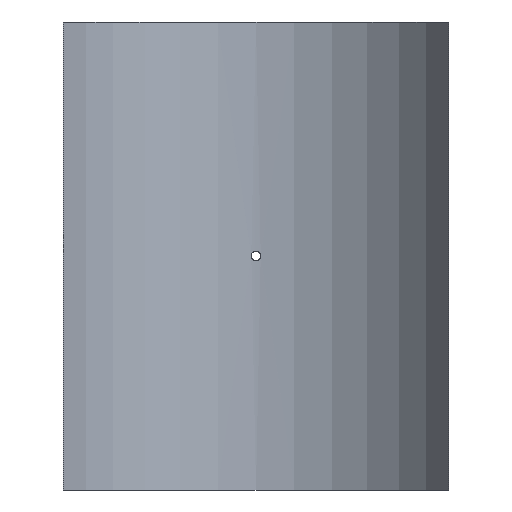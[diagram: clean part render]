
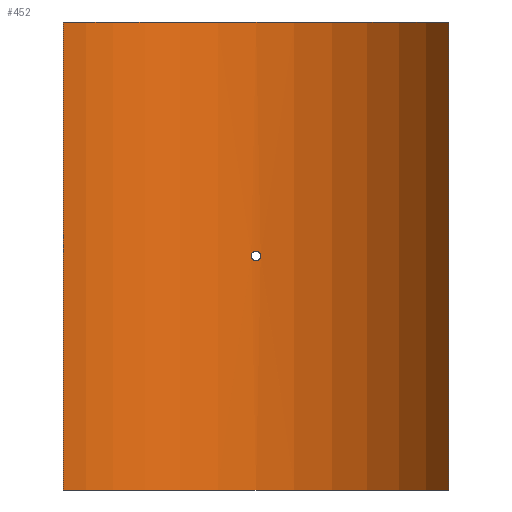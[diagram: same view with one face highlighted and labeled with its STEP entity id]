
A CAD part, front view. The second image highlights one B-rep face of the part: STEP entity #452.
In plain terms, the highlighted cylindrical face has radius 225 mm (diameter 450 mm), a partial arc.
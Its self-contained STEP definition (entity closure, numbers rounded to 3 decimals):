
#19=B_SPLINE_CURVE_WITH_KNOTS('',3,(#788,#789,#790,#791,#792,#793,#794,
#795,#796,#797,#798,#799,#800,#801,#802,#803,#804,#805,#806,#807,#808,#809,
#810,#811,#812,#813,#814,#815,#816,#817,#818,#819,#820,#821),
 .UNSPECIFIED.,.T.,.F.,(4,2,2,2,2,2,2,2,2,2,2,2,2,2,2,2,4),(0.,0.181,
0.362,0.542,0.723,0.904,
1.085,1.266,1.447,1.627,1.808,
1.989,2.17,2.351,2.531,2.712,
2.893),.UNSPECIFIED.);
#43=LINE('',#1065,#62);
#44=LINE('',#1068,#63);
#62=VECTOR('',#661,10.);
#63=VECTOR('',#664,10.);
#76=CYLINDRICAL_SURFACE('',#530,225.);
#88=FACE_BOUND('',#167,.T.);
#127=FACE_OUTER_BOUND('',#166,.T.);
#166=EDGE_LOOP('',(#405,#406,#407,#408));
#167=EDGE_LOOP('',(#409));
#201=CIRCLE('',#529,225.);
#202=CIRCLE('',#531,225.);
#219=VERTEX_POINT('',#786);
#242=VERTEX_POINT('',#1058);
#243=VERTEX_POINT('',#1060);
#244=VERTEX_POINT('',#1064);
#245=VERTEX_POINT('',#1066);
#267=EDGE_CURVE('',#219,#219,#19,.T.);
#299=EDGE_CURVE('',#242,#243,#201,.T.);
#301=EDGE_CURVE('',#244,#242,#43,.T.);
#302=EDGE_CURVE('',#245,#244,#202,.T.);
#303=EDGE_CURVE('',#245,#243,#44,.T.);
#405=ORIENTED_EDGE('',*,*,#301,.F.);
#406=ORIENTED_EDGE('',*,*,#302,.F.);
#407=ORIENTED_EDGE('',*,*,#303,.T.);
#408=ORIENTED_EDGE('',*,*,#299,.F.);
#409=ORIENTED_EDGE('',*,*,#267,.T.);
#452=ADVANCED_FACE('',(#127,#88),#76,.F.);
#529=AXIS2_PLACEMENT_3D('',#1061,#656,#657);
#530=AXIS2_PLACEMENT_3D('',#1063,#659,#660);
#531=AXIS2_PLACEMENT_3D('',#1067,#662,#663);
#656=DIRECTION('center_axis',(0.,0.,1.));
#657=DIRECTION('ref_axis',(0.86,0.51,0.));
#659=DIRECTION('center_axis',(0.,0.,1.));
#660=DIRECTION('ref_axis',(0.86,0.51,0.));
#661=DIRECTION('',(0.,0.,-1.));
#662=DIRECTION('center_axis',(0.,0.,-1.));
#663=DIRECTION('ref_axis',(0.86,0.51,0.));
#664=DIRECTION('',(0.,0.,-1.));
#786=CARTESIAN_POINT('',(4.8,224.949,0.));
#788=CARTESIAN_POINT('Ctrl Pts',(4.8,224.949,0.));
#789=CARTESIAN_POINT('Ctrl Pts',(4.8,224.949,-0.603));
#790=CARTESIAN_POINT('Ctrl Pts',(4.68,224.951,-1.246));
#791=CARTESIAN_POINT('Ctrl Pts',(4.19,224.961,-2.428));
#792=CARTESIAN_POINT('Ctrl Pts',(3.82,224.968,-2.968));
#793=CARTESIAN_POINT('Ctrl Pts',(2.968,224.981,-3.82));
#794=CARTESIAN_POINT('Ctrl Pts',(2.428,224.988,-4.19));
#795=CARTESIAN_POINT('Ctrl Pts',(1.246,224.997,-4.68));
#796=CARTESIAN_POINT('Ctrl Pts',(0.603,225.,-4.8));
#797=CARTESIAN_POINT('Ctrl Pts',(-0.603,225.,-4.8));
#798=CARTESIAN_POINT('Ctrl Pts',(-1.246,224.997,-4.68));
#799=CARTESIAN_POINT('Ctrl Pts',(-2.428,224.988,-4.19));
#800=CARTESIAN_POINT('Ctrl Pts',(-2.968,224.981,-3.82));
#801=CARTESIAN_POINT('Ctrl Pts',(-3.82,224.968,-2.968));
#802=CARTESIAN_POINT('Ctrl Pts',(-4.19,224.961,-2.428));
#803=CARTESIAN_POINT('Ctrl Pts',(-4.68,224.951,-1.246));
#804=CARTESIAN_POINT('Ctrl Pts',(-4.8,224.949,-0.603));
#805=CARTESIAN_POINT('Ctrl Pts',(-4.8,224.949,0.603));
#806=CARTESIAN_POINT('Ctrl Pts',(-4.68,224.951,1.246));
#807=CARTESIAN_POINT('Ctrl Pts',(-4.19,224.961,2.428));
#808=CARTESIAN_POINT('Ctrl Pts',(-3.82,224.968,2.968));
#809=CARTESIAN_POINT('Ctrl Pts',(-2.968,224.981,3.82));
#810=CARTESIAN_POINT('Ctrl Pts',(-2.428,224.988,4.19));
#811=CARTESIAN_POINT('Ctrl Pts',(-1.246,224.997,4.68));
#812=CARTESIAN_POINT('Ctrl Pts',(-0.603,225.,4.8));
#813=CARTESIAN_POINT('Ctrl Pts',(0.603,225.,4.8));
#814=CARTESIAN_POINT('Ctrl Pts',(1.246,224.997,4.68));
#815=CARTESIAN_POINT('Ctrl Pts',(2.428,224.988,4.19));
#816=CARTESIAN_POINT('Ctrl Pts',(2.968,224.981,3.82));
#817=CARTESIAN_POINT('Ctrl Pts',(3.82,224.968,2.968));
#818=CARTESIAN_POINT('Ctrl Pts',(4.19,224.961,2.428));
#819=CARTESIAN_POINT('Ctrl Pts',(4.68,224.951,1.246));
#820=CARTESIAN_POINT('Ctrl Pts',(4.8,224.949,0.603));
#821=CARTESIAN_POINT('Ctrl Pts',(4.8,224.949,0.));
#1058=CARTESIAN_POINT('',(193.5,114.816,-235.));
#1060=CARTESIAN_POINT('',(-193.5,114.816,-235.));
#1061=CARTESIAN_POINT('Origin',(0.,0.,
-235.));
#1063=CARTESIAN_POINT('Origin',(0.,0.,
0.));
#1064=CARTESIAN_POINT('',(193.5,114.816,235.));
#1065=CARTESIAN_POINT('',(193.5,114.816,0.));
#1066=CARTESIAN_POINT('',(-193.5,114.816,235.));
#1067=CARTESIAN_POINT('Origin',(0.,0.,
235.));
#1068=CARTESIAN_POINT('',(-193.5,114.816,0.));
